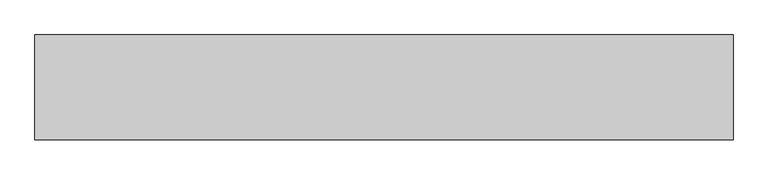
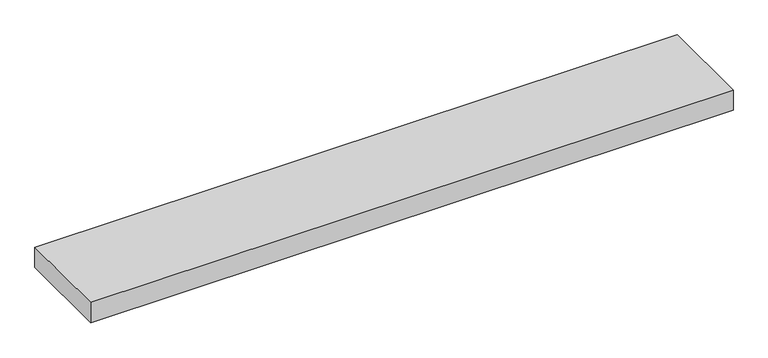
"""IFC4 building model written with IfcOpenShell, lengths in millimetres: light fixture geometry, GENILED_Светильник светодиодный_ЛПО Низковольтный : ЛПО 1200x180x40 40Вт 12В Опал."""

from ifc_helpers import new_model, si_unit, origin, place, context, project, spatial, faceted_brep, source, transform, mapped, element, save


def light_fixture_df0576ea(model_context):
    return source(origin(), model_context, "Body", "Brep", [
        faceted_brep([(600.0, 90.0, 40.0), (-600.0, 90.0, 40.0), (-600.0, -90.0, 40.0), (600.0, -90.0, 40.0), (590.0, 80.0, 5.0), (590.0, -80.0, 5.0), (-590.0, -80.0, 5.0), (-590.0, 80.0, 5.0), (600.0, 90.0, 0.0), (600.0, -90.0, 0.0), (-600.0, -90.0, 0.0), (-600.0, 90.0, 0.0), (590.0, 80.0, 0.0), (-590.0, 80.0, 0.0), (-590.0, -80.0, 0.0), (590.0, -80.0, 0.0)], [[[0, 1, 2, 3]], [[4, 5, 6, 7]], [[8, 9, 10, 11], [12, 13, 14, 15]], [[1, 0, 8, 11]], [[2, 1, 11, 10]], [[3, 2, 10, 9]], [[0, 3, 9, 8]], [[12, 15, 5, 4]], [[15, 14, 6, 5]], [[14, 13, 7, 6]], [[13, 12, 4, 7]]]),
    ])


if __name__ == "__main__":
    model = new_model("IFC4")
    model_context = context("Model", 3, world=origin())
    ifc_project = project(units=[si_unit("LENGTHUNIT", "METRE", prefix="MILLI")], contexts=[model_context])
    site = spatial("IfcSite", under=ifc_project)
    building = spatial("IfcBuilding", under=site)
    placement = place(None, origin())
    light_fixture_shape = light_fixture_df0576ea(model_context)
    element("IfcLightFixture", 1, ObjectType="GENILED_Светильник светодиодный_ЛПО Низковольтный : ЛПО 1200x180x40 40Вт 12В Опал", at=placement, inside=building, context=model_context, shape_type="MappedRepresentation", body=[
        mapped(light_fixture_shape, transform((0.0, 0.0, 0.0), x_axis=(1.0, 0.0, 0.0), y_axis=(0.0, 1.0, 0.0), z_axis=(0.0, 0.0, 1.0))),
    ])
    save(model, "model.ifc")
